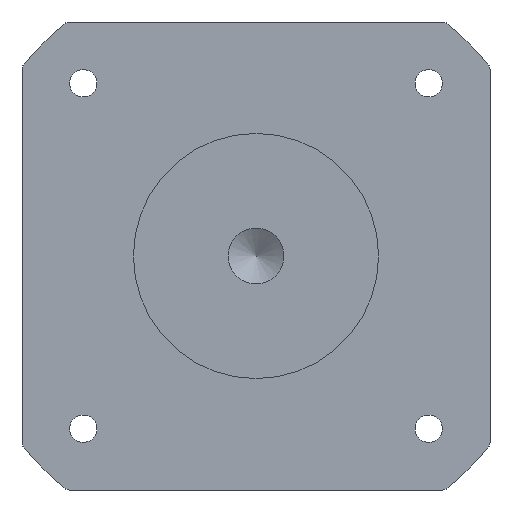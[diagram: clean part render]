
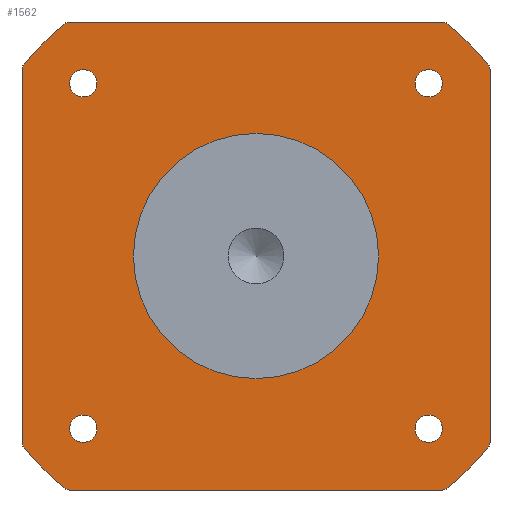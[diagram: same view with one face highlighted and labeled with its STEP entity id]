
A CAD part, front view. The second image highlights one B-rep face of the part: STEP entity #1562.
In plain terms, the highlighted planar face has unit normal (0, -1, 0).
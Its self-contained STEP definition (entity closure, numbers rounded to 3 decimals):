
#599=FACE_BOUND('',#777,.T.);
#600=FACE_BOUND('',#778,.T.);
#601=FACE_BOUND('',#779,.T.);
#602=FACE_BOUND('',#780,.T.);
#603=FACE_BOUND('',#781,.T.);
#623=PLANE('',#1710);
#708=FACE_OUTER_BOUND('',#776,.T.);
#776=EDGE_LOOP('',(#1371,#1372,#1373,#1374,#1375,#1376,#1377,#1378,#1379,
#1380,#1381,#1382,#1383,#1384,#1385,#1386));
#777=EDGE_LOOP('',(#1387));
#778=EDGE_LOOP('',(#1388));
#779=EDGE_LOOP('',(#1389));
#780=EDGE_LOOP('',(#1390));
#781=EDGE_LOOP('',(#1391));
#859=LINE('',#2378,#914);
#860=LINE('',#2382,#915);
#861=LINE('',#2386,#916);
#862=LINE('',#2388,#917);
#914=VECTOR('',#1988,10.);
#915=VECTOR('',#1995,10.);
#916=VECTOR('',#2002,10.);
#917=VECTOR('',#2005,10.);
#944=CIRCLE('',#1637,11.);
#952=CIRCLE('',#1649,0.6);
#967=CIRCLE('',#1671,0.6);
#971=CIRCLE('',#1677,0.6);
#979=CIRCLE('',#1690,0.6);
#980=CIRCLE('',#1693,0.6);
#983=CIRCLE('',#1698,0.6);
#984=CIRCLE('',#1700,0.6);
#985=CIRCLE('',#1703,0.6);
#986=CIRCLE('',#1706,27.);
#987=CIRCLE('',#1709,27.);
#988=CIRCLE('',#1711,27.);
#989=CIRCLE('',#1712,27.);
#990=CIRCLE('',#1713,1.23);
#991=CIRCLE('',#1714,1.23);
#992=CIRCLE('',#1715,1.23);
#993=CIRCLE('',#1716,1.23);
#1038=VERTEX_POINT('',#2243);
#1046=VERTEX_POINT('',#2264);
#1047=VERTEX_POINT('',#2265);
#1060=VERTEX_POINT('',#2304);
#1061=VERTEX_POINT('',#2305);
#1065=VERTEX_POINT('',#2317);
#1066=VERTEX_POINT('',#2318);
#1070=VERTEX_POINT('',#2339);
#1071=VERTEX_POINT('',#2340);
#1072=VERTEX_POINT('',#2348);
#1073=VERTEX_POINT('',#2349);
#1074=VERTEX_POINT('',#2357);
#1075=VERTEX_POINT('',#2358);
#1076=VERTEX_POINT('',#2363);
#1077=VERTEX_POINT('',#2364);
#1078=VERTEX_POINT('',#2372);
#1079=VERTEX_POINT('',#2373);
#1080=VERTEX_POINT('',#2390);
#1081=VERTEX_POINT('',#2392);
#1082=VERTEX_POINT('',#2394);
#1083=VERTEX_POINT('',#2396);
#1123=EDGE_CURVE('',#1038,#1038,#944,.T.);
#1132=EDGE_CURVE('',#1046,#1047,#952,.T.);
#1151=EDGE_CURVE('',#1060,#1061,#967,.T.);
#1157=EDGE_CURVE('',#1065,#1066,#971,.T.);
#1169=EDGE_CURVE('',#1070,#1071,#979,.T.);
#1174=EDGE_CURVE('',#1072,#1073,#980,.T.);
#1179=EDGE_CURVE('',#1074,#1075,#983,.T.);
#1182=EDGE_CURVE('',#1076,#1077,#984,.T.);
#1187=EDGE_CURVE('',#1078,#1079,#985,.T.);
#1190=EDGE_CURVE('',#1079,#1046,#859,.T.);
#1191=EDGE_CURVE('',#1078,#1077,#986,.T.);
#1192=EDGE_CURVE('',#1073,#1076,#860,.T.);
#1193=EDGE_CURVE('',#1072,#1066,#987,.T.);
#1194=EDGE_CURVE('',#1071,#1065,#861,.T.);
#1195=EDGE_CURVE('',#1070,#1061,#988,.T.);
#1196=EDGE_CURVE('',#1075,#1060,#862,.T.);
#1197=EDGE_CURVE('',#1074,#1047,#989,.T.);
#1198=EDGE_CURVE('',#1080,#1080,#990,.T.);
#1199=EDGE_CURVE('',#1081,#1081,#991,.T.);
#1200=EDGE_CURVE('',#1082,#1082,#992,.T.);
#1201=EDGE_CURVE('',#1083,#1083,#993,.T.);
#1371=ORIENTED_EDGE('',*,*,#1132,.F.);
#1372=ORIENTED_EDGE('',*,*,#1190,.F.);
#1373=ORIENTED_EDGE('',*,*,#1187,.F.);
#1374=ORIENTED_EDGE('',*,*,#1191,.T.);
#1375=ORIENTED_EDGE('',*,*,#1182,.F.);
#1376=ORIENTED_EDGE('',*,*,#1192,.F.);
#1377=ORIENTED_EDGE('',*,*,#1174,.F.);
#1378=ORIENTED_EDGE('',*,*,#1193,.T.);
#1379=ORIENTED_EDGE('',*,*,#1157,.F.);
#1380=ORIENTED_EDGE('',*,*,#1194,.F.);
#1381=ORIENTED_EDGE('',*,*,#1169,.F.);
#1382=ORIENTED_EDGE('',*,*,#1195,.T.);
#1383=ORIENTED_EDGE('',*,*,#1151,.F.);
#1384=ORIENTED_EDGE('',*,*,#1196,.F.);
#1385=ORIENTED_EDGE('',*,*,#1179,.F.);
#1386=ORIENTED_EDGE('',*,*,#1197,.T.);
#1387=ORIENTED_EDGE('',*,*,#1123,.T.);
#1388=ORIENTED_EDGE('',*,*,#1198,.T.);
#1389=ORIENTED_EDGE('',*,*,#1199,.T.);
#1390=ORIENTED_EDGE('',*,*,#1200,.T.);
#1391=ORIENTED_EDGE('',*,*,#1201,.T.);
#1562=ADVANCED_FACE('',(#708,#599,#600,#601,#602,#603),#623,.F.);
#1637=AXIS2_PLACEMENT_3D('',#2244,#1827,#1828);
#1649=AXIS2_PLACEMENT_3D('',#2266,#1852,#1853);
#1671=AXIS2_PLACEMENT_3D('',#2306,#1900,#1901);
#1677=AXIS2_PLACEMENT_3D('',#2319,#1914,#1915);
#1690=AXIS2_PLACEMENT_3D('',#2341,#1944,#1945);
#1693=AXIS2_PLACEMENT_3D('',#2350,#1954,#1955);
#1698=AXIS2_PLACEMENT_3D('',#2359,#1966,#1967);
#1700=AXIS2_PLACEMENT_3D('',#2365,#1972,#1973);
#1703=AXIS2_PLACEMENT_3D('',#2374,#1982,#1983);
#1706=AXIS2_PLACEMENT_3D('',#2380,#1991,#1992);
#1709=AXIS2_PLACEMENT_3D('',#2384,#1998,#1999);
#1710=AXIS2_PLACEMENT_3D('',#2385,#2000,#2001);
#1711=AXIS2_PLACEMENT_3D('',#2387,#2003,#2004);
#1712=AXIS2_PLACEMENT_3D('',#2389,#2006,#2007);
#1713=AXIS2_PLACEMENT_3D('',#2391,#2008,#2009);
#1714=AXIS2_PLACEMENT_3D('',#2393,#2010,#2011);
#1715=AXIS2_PLACEMENT_3D('',#2395,#2012,#2013);
#1716=AXIS2_PLACEMENT_3D('',#2397,#2014,#2015);
#1827=DIRECTION('center_axis',(0.,1.,0.));
#1828=DIRECTION('ref_axis',(1.,0.,0.));
#1852=DIRECTION('center_axis',(0.,1.,0.));
#1853=DIRECTION('ref_axis',(0.337,0.,0.941));
#1900=DIRECTION('center_axis',(0.,1.,0.));
#1901=DIRECTION('ref_axis',(0.941,0.,-0.337));
#1914=DIRECTION('center_axis',(0.,1.,0.));
#1915=DIRECTION('ref_axis',(-0.337,0.,-0.941));
#1944=DIRECTION('center_axis',(0.,1.,0.));
#1945=DIRECTION('ref_axis',(0.337,0.,-0.941));
#1954=DIRECTION('center_axis',(0.,1.,0.));
#1955=DIRECTION('ref_axis',(-0.941,0.,-0.337));
#1966=DIRECTION('center_axis',(0.,1.,0.));
#1967=DIRECTION('ref_axis',(0.941,0.,0.337));
#1972=DIRECTION('center_axis',(0.,1.,0.));
#1973=DIRECTION('ref_axis',(-0.941,0.,0.337));
#1982=DIRECTION('center_axis',(0.,1.,0.));
#1983=DIRECTION('ref_axis',(-0.337,0.,0.941));
#1988=DIRECTION('',(1.,0.,0.));
#1991=DIRECTION('center_axis',(0.,-1.,0.));
#1992=DIRECTION('ref_axis',(-1.,0.,0.));
#1995=DIRECTION('',(0.,0.,1.));
#1998=DIRECTION('center_axis',(0.,-1.,0.));
#1999=DIRECTION('ref_axis',(-1.,0.,0.));
#2000=DIRECTION('center_axis',(0.,1.,0.));
#2001=DIRECTION('ref_axis',(0.,0.,1.));
#2002=DIRECTION('',(-1.,0.,0.));
#2003=DIRECTION('center_axis',(0.,-1.,0.));
#2004=DIRECTION('ref_axis',(-1.,0.,0.));
#2005=DIRECTION('',(0.,0.,-1.));
#2006=DIRECTION('center_axis',(0.,-1.,0.));
#2007=DIRECTION('ref_axis',(-1.,0.,0.));
#2008=DIRECTION('center_axis',(0.,1.,0.));
#2009=DIRECTION('ref_axis',(1.,0.,0.));
#2010=DIRECTION('center_axis',(0.,1.,0.));
#2011=DIRECTION('ref_axis',(1.,0.,0.));
#2012=DIRECTION('center_axis',(0.,1.,0.));
#2013=DIRECTION('ref_axis',(1.,0.,0.));
#2014=DIRECTION('center_axis',(0.,1.,0.));
#2015=DIRECTION('ref_axis',(1.,0.,0.));
#2243=CARTESIAN_POINT('',(-11.,0.,0.));
#2244=CARTESIAN_POINT('Origin',(0.,0.,0.));
#2264=CARTESIAN_POINT('',(16.757,0.,21.));
#2265=CARTESIAN_POINT('',(17.138,0.,20.864));
#2266=CARTESIAN_POINT('Origin',(16.757,0.,20.4));
#2304=CARTESIAN_POINT('',(21.,0.,-16.757));
#2305=CARTESIAN_POINT('',(20.864,0.,-17.138));
#2306=CARTESIAN_POINT('Origin',(20.4,0.,-16.757));
#2317=CARTESIAN_POINT('',(-16.757,0.,-21.));
#2318=CARTESIAN_POINT('',(-17.138,0.,-20.864));
#2319=CARTESIAN_POINT('Origin',(-16.757,0.,-20.4));
#2339=CARTESIAN_POINT('',(17.138,0.,-20.864));
#2340=CARTESIAN_POINT('',(16.757,0.,-21.));
#2341=CARTESIAN_POINT('Origin',(16.757,0.,-20.4));
#2348=CARTESIAN_POINT('',(-20.864,0.,-17.138));
#2349=CARTESIAN_POINT('',(-21.,0.,-16.757));
#2350=CARTESIAN_POINT('Origin',(-20.4,0.,-16.757));
#2357=CARTESIAN_POINT('',(20.864,0.,17.138));
#2358=CARTESIAN_POINT('',(21.,0.,16.757));
#2359=CARTESIAN_POINT('Origin',(20.4,0.,16.757));
#2363=CARTESIAN_POINT('',(-21.,0.,16.757));
#2364=CARTESIAN_POINT('',(-20.864,0.,17.138));
#2365=CARTESIAN_POINT('Origin',(-20.4,0.,16.757));
#2372=CARTESIAN_POINT('',(-17.138,0.,20.864));
#2373=CARTESIAN_POINT('',(-16.757,0.,21.));
#2374=CARTESIAN_POINT('Origin',(-16.757,0.,20.4));
#2378=CARTESIAN_POINT('',(-21.,0.,21.));
#2380=CARTESIAN_POINT('Origin',(0.,0.,0.));
#2382=CARTESIAN_POINT('',(-21.,0.,-21.));
#2384=CARTESIAN_POINT('Origin',(0.,0.,0.));
#2385=CARTESIAN_POINT('Origin',(0.,0.,0.));
#2386=CARTESIAN_POINT('',(21.,0.,-21.));
#2387=CARTESIAN_POINT('Origin',(0.,0.,0.));
#2388=CARTESIAN_POINT('',(21.,0.,21.));
#2389=CARTESIAN_POINT('Origin',(0.,0.,0.));
#2390=CARTESIAN_POINT('',(-16.73,0.,-15.5));
#2391=CARTESIAN_POINT('Origin',(-15.5,0.,-15.5));
#2392=CARTESIAN_POINT('',(-16.73,0.,15.5));
#2393=CARTESIAN_POINT('Origin',(-15.5,0.,15.5));
#2394=CARTESIAN_POINT('',(14.271,0.,15.5));
#2395=CARTESIAN_POINT('Origin',(15.5,0.,15.5));
#2396=CARTESIAN_POINT('',(14.271,0.,-15.5));
#2397=CARTESIAN_POINT('Origin',(15.5,0.,-15.5));
